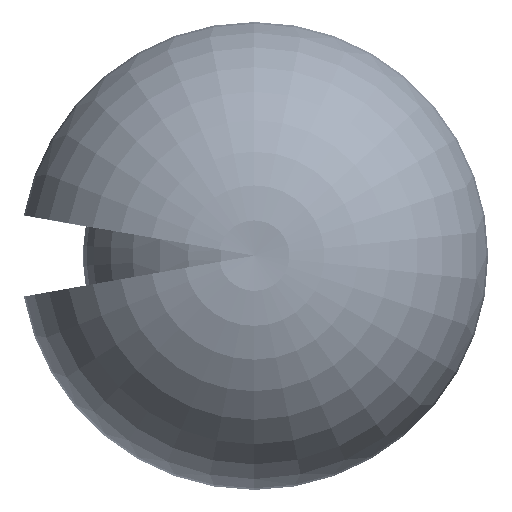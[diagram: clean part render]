
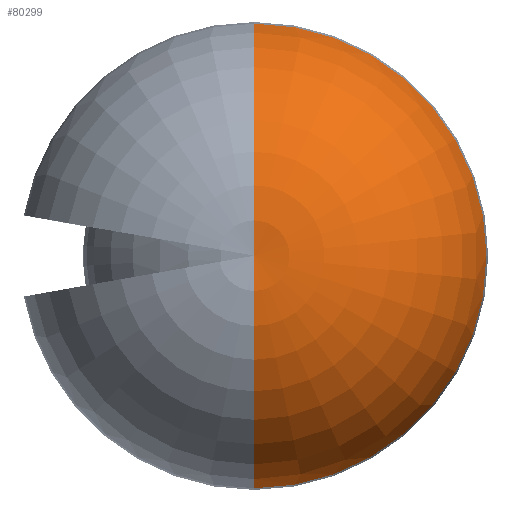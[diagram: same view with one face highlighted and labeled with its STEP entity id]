
A CAD part, top view. The second image highlights one B-rep face of the part: STEP entity #80299.
In plain terms, the highlighted toroidal (fillet/blend) face has major radius 340 mm and minor radius 2566.89 mm.
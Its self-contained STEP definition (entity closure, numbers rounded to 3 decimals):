
#29145 = AXIS2_PLACEMENT_3D ( 'NONE', #73504, #439581, #586685 ) ;
#43719 = ORIENTED_EDGE ( 'NONE', *, *, #457286, .T. ) ;
#47978 = ORIENTED_EDGE ( 'NONE', *, *, #462681, .F. ) ;
#66232 = DIRECTION ( 'NONE',  ( -1., 0., 0. ) ) ;
#67081 = CARTESIAN_POINT ( 'NONE',  ( 0., -340., 780. ) ) ;
#72537 = CARTESIAN_POINT ( 'NONE',  ( 0., 0., 3324.274 ) ) ;
#73504 = CARTESIAN_POINT ( 'NONE',  ( 0., 0., 780. ) ) ;
#75074 = ORIENTED_EDGE ( 'NONE', *, *, #541537, .F. ) ;
#80299 = ADVANCED_FACE ( 'NONE', ( #544627 ), #115343, .T. ) ;
#115343 = TOROIDAL_SURFACE ( 'NONE', #29145, 340., 2566.892 ) ;
#115970 = CARTESIAN_POINT ( 'NONE',  ( 0., 0., 1225.736 ) ) ;
#116161 = EDGE_LOOP ( 'NONE', ( #75074, #43719, #47978 ) ) ;
#166113 = DIRECTION ( 'NONE',  ( 0., 1., 0. ) ) ;
#178995 = CIRCLE ( 'NONE', #427781, 2867.895 ) ;
#197231 = DIRECTION ( 'NONE',  ( 0., 1., 0. ) ) ;
#217663 = CARTESIAN_POINT ( 'NONE',  ( 0., -2867.895, 1225.736 ) ) ;
#240672 = CIRCLE ( 'NONE', #576249, 2566.892 ) ;
#250048 = DIRECTION ( 'NONE',  ( 1., 0., 0. ) ) ;
#260591 = CARTESIAN_POINT ( 'NONE',  ( 0., 2867.895, 1225.736 ) ) ;
#293526 = VERTEX_POINT ( 'NONE', #260591 ) ;
#307350 = AXIS2_PLACEMENT_3D ( 'NONE', #67081, #250048, #166113 ) ;
#384025 = VERTEX_POINT ( 'NONE', #72537 ) ;
#423558 = CARTESIAN_POINT ( 'NONE',  ( 0., 340., 780. ) ) ;
#427781 = AXIS2_PLACEMENT_3D ( 'NONE', #115970, #566386, #197231 ) ;
#439581 = DIRECTION ( 'NONE',  ( 0., 0., -1. ) ) ;
#457286 = EDGE_CURVE ( 'NONE', #384025, #462015, #575600, .T. ) ;
#462015 = VERTEX_POINT ( 'NONE', #217663 ) ;
#462681 = EDGE_CURVE ( 'NONE', #293526, #462015, #178995, .T. ) ;
#541537 = EDGE_CURVE ( 'NONE', #384025, #293526, #240672, .T. ) ;
#544627 = FACE_OUTER_BOUND ( 'NONE', #116161, .T. ) ;
#558758 = DIRECTION ( 'NONE',  ( 0., 0., 1. ) ) ;
#566386 = DIRECTION ( 'NONE',  ( 0., 0., -1. ) ) ;
#575600 = CIRCLE ( 'NONE', #307350, 2566.892 ) ;
#576249 = AXIS2_PLACEMENT_3D ( 'NONE', #423558, #66232, #558758 ) ;
#586685 = DIRECTION ( 'NONE',  ( 0., 1., 0. ) ) ;
